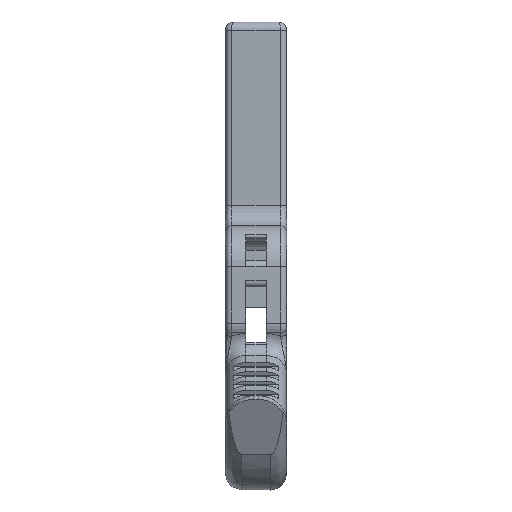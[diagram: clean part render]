
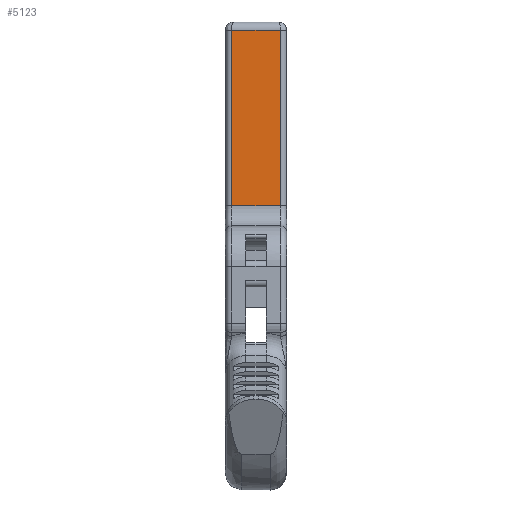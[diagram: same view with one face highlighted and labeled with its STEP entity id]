
A CAD part, front view. The second image highlights one B-rep face of the part: STEP entity #5123.
In plain terms, the highlighted planar face has unit normal (0, -1, 0).
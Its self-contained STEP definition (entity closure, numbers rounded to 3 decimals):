
#177=PLANE('',#5634);
#790=FACE_OUTER_BOUND('',#1092,.T.);
#1092=EDGE_LOOP('',(#4289,#4290,#4291,#4292));
#1325=LINE('',#8025,#1713);
#1499=LINE('',#9987,#1887);
#1502=LINE('',#10075,#1890);
#1503=LINE('',#10076,#1891);
#1713=VECTOR('',#6207,10.);
#1887=VECTOR('',#6887,90.);
#1890=VECTOR('',#6920,24.);
#1891=VECTOR('',#6921,90.);
#2140=VERTEX_POINT('',#7926);
#2141=VERTEX_POINT('',#7965);
#2381=VERTEX_POINT('',#9985);
#2385=VERTEX_POINT('',#10074);
#2699=EDGE_CURVE('',#2140,#2141,#1325,.T.);
#3070=EDGE_CURVE('',#2381,#2140,#1499,.T.);
#3082=EDGE_CURVE('',#2385,#2381,#1502,.T.);
#3083=EDGE_CURVE('',#2141,#2385,#1503,.T.);
#4289=ORIENTED_EDGE('',*,*,#2699,.F.);
#4290=ORIENTED_EDGE('',*,*,#3070,.F.);
#4291=ORIENTED_EDGE('',*,*,#3082,.F.);
#4292=ORIENTED_EDGE('',*,*,#3083,.F.);
#5123=ADVANCED_FACE('',(#790),#177,.T.);
#5634=AXIS2_PLACEMENT_3D('',#10073,#6918,#6919);
#6207=DIRECTION('',(1.,0.,0.));
#6887=DIRECTION('',(0.,0.,1.));
#6918=DIRECTION('center_axis',(0.,-1.,0.));
#6919=DIRECTION('ref_axis',(0.,0.,-1.));
#6920=DIRECTION('',(-1.,0.,0.));
#6921=DIRECTION('',(0.,0.,-1.));
#7926=CARTESIAN_POINT('',(-12.,-40.,-24.));
#7965=CARTESIAN_POINT('',(12.,-40.,-24.));
#8025=CARTESIAN_POINT('',(0.,-40.,-24.));
#9985=CARTESIAN_POINT('',(-12.,-40.,-110.));
#9987=CARTESIAN_POINT('',(-12.,-40.,-110.));
#10073=CARTESIAN_POINT('Origin',(0.,-40.,-120.));
#10074=CARTESIAN_POINT('',(12.,-40.,-110.));
#10075=CARTESIAN_POINT('',(12.,-40.,-110.));
#10076=CARTESIAN_POINT('',(12.,-40.,-20.));
